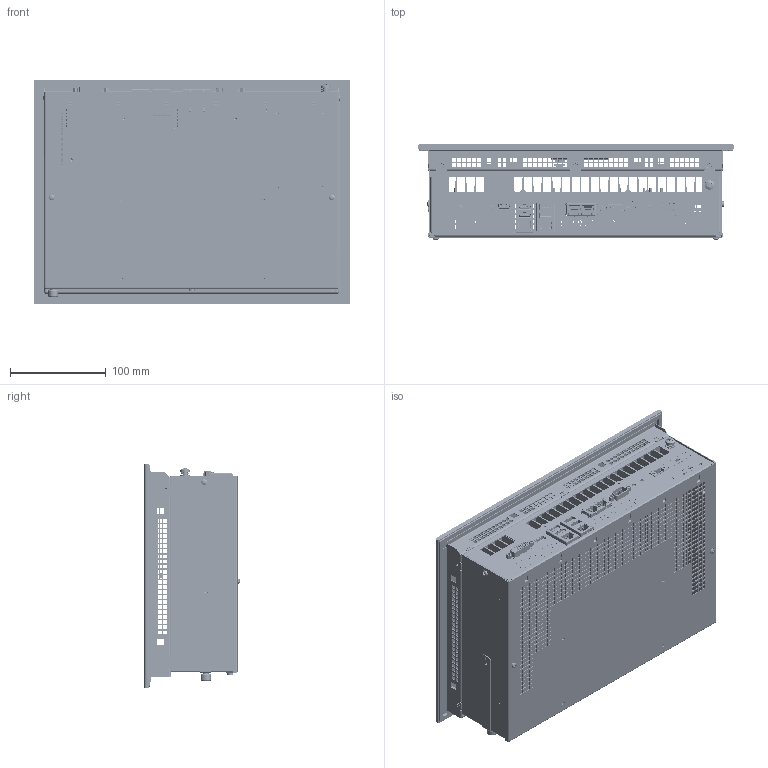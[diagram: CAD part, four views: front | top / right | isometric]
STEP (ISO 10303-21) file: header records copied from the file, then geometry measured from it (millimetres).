
FILE_DESCRIPTION (( 'STEP AP214' ), '1' );
FILE_NAME ('C6P34-Panel_121W_Cap_S0.STEP', '2019-09-23T14:52:50', ( '' ), ( '' ), 'SwSTEP 2.0', 'SolidWorks 2018', '' );
FILE_SCHEMA (( 'AUTOMOTIVE_DESIGN' ));
Length unit declared in the file: millimetre
Products named in the file (164): 7397_227; 14300025; 57936013; 69111028; perni_filettati.prt; piazzuola_de800_di370; 66320016; 51702286_Default<A macchina>; 21405029; 51524089; 65720030; 7359_056_Depopolato; 21408088; 21502089; 66320015; 55455110^56600301_56600300(2)_56600300; 21410052; 59302540_Default<A macchina>; 57902481; 57936014; 56600300; 52536147; 62920009; 23330039; 51702286; 58502116; 56600301^56600300(2)_56600300; 59302540; 55688005^55600007_56600300(2)_56600300; 59702276; 65720029; 62920002; 3802x-x05n-01x^55600007_56600300(2)_56600300; 62920012; 21404036; 21410046; 21410056; 56636640.prt; 21509026; 52912002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
Assembly tree (120 placements, depth 6):
  7397_227
  14300025
  69111028
  perni_filettati.prt
  piazzuola_de800_di370
Bounding box: 331 x 100.19 x 234 mm (x, y, z)
Volume: 1077616.9 mm3; surface area: 1404536.2 mm2
Topology: 208 solids, 226 shells, 24420 faces, 68556 edges, 44916 vertices
Faces by surface type: plane 18816, cylinder 4374, bspline 634, cone 501, torus 75, sphere 20
Full cylindrical faces by diameter (mm): 0.3 x9, 0.434 x1, 0.6 x30, 0.65 x6, 0.7 x165, 0.8 x36, 0.85 x66, 0.9 x175, 0.95 x11, 1 x119, 1.1 x3, 1.2 x10, 1.32 x2, 1.35 x4, 1.4 x8, 1.5 x6, 1.6 x7, 1.7 x4, 1.8 x3, 1.9 x4, 1.95 x4, 2.05 x1, 2.3 x18, 2.4 x9, 2.5 x29, 2.6 x5, 2.8 x3, 2.874 x1, 3 x50, 3.15 x2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
Entity records: 724082 total; most frequent: CARTESIAN_POINT 152057, ORIENTED_EDGE 117494, DIRECTION 104476, EDGE_CURVE 59137, LINE 49604, VECTOR 49604, VERTEX_POINT 39414, AXIS2_PLACEMENT_3D 27436
